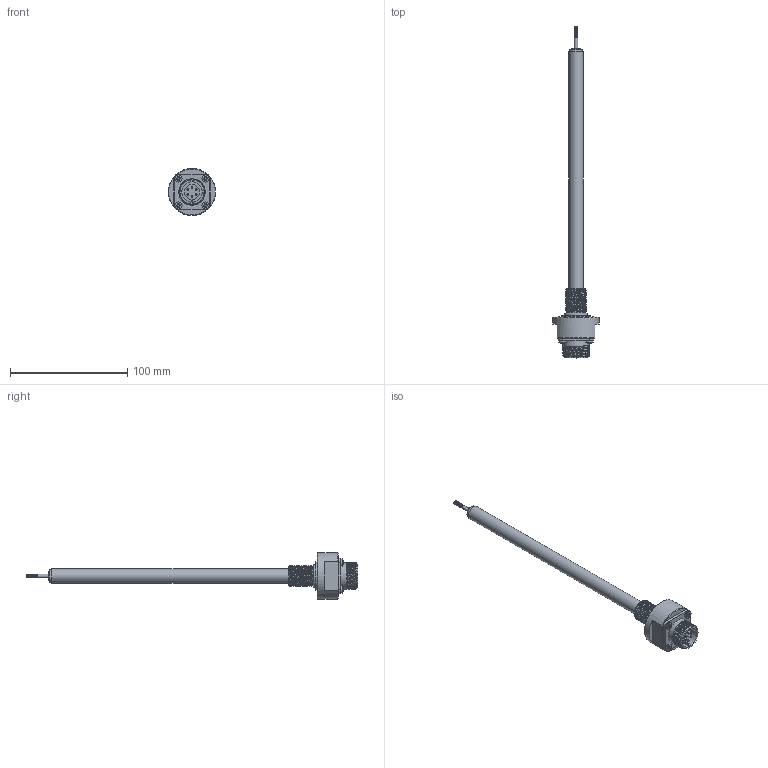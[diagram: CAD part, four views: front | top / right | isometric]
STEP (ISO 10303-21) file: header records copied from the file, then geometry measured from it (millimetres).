
FILE_DESCRIPTION( ( 'Unknown' ), '1' );
FILE_NAME( 'N:/Engineering/CAD/LVDT/HYD/Kunden-3D-Modell/SM120-HYD-18-S.stp', 'Unknown', ( 'Unknown' ), ( 'Unknown' ), 'PSStep 17.0.49', 'Unknown', ' ' );
FILE_SCHEMA( ( 'AUTOMOTIVE_DESIGN { 1 0 10303 214 1 1 1 1 }' ) );
Length unit declared in the file: millimetre
Products named in the file (9): Assem1; Endkappe; Innenrohr_SM5-HYD; Kernverlängerung_SM5-HYD; SM-HYD-Flansch_M18_vereinfacht; O-Ring_15,4x2,1; MIL-Stecker_2; DIN7985_M3-6_Torx; Aussenrohr_SM120-HYD_vereinfacht
Assembly tree (11 placements, depth 2):
  Assem1
    Endkappe
    Innenrohr_SM5-HYD
    Kernverlängerung_SM5-HYD
    SM-HYD-Flansch_M18_vereinfacht
    O-Ring_15,4x2,1
    MIL-Stecker_2
    DIN7985_M3-6_Torx  x4
    Aussenrohr_SM120-HYD_vereinfacht
Bounding box: 40 x 282.9 x 40 mm (x, y, z)
Volume: 55167.9 mm3; surface area: 26634.6 mm2
Topology: 11 solids, 11 shells, 255 faces, 589 edges, 385 vertices
Faces by surface type: plane 132, cylinder 82, cone 22, bspline 14, sphere 4, torus 1
Full cylindrical faces by diameter (mm): 1.4 x6, 1.6 x6, 2.013 x1, 2.4 x1, 2.5 x8, 3 x9, 4 x1, 6 x6, 8 x1, 10 x1, 11 x2, 12 x3, 13 x1, 15.8 x1, 17.6 x1, 18.8 x1, 20.2 x1, 22.3 x7, 24 x1, 40 x1
Entity records: 13563 total; most frequent: CARTESIAN_POINT 8176, DIRECTION 792, ORIENTED_EDGE 656, AXIS2_PLACEMENT_3D 336, EDGE_CURVE 328, EDGE_LOOP 289, VERTEX_POINT 255, FACE_OUTER_BOUND 236
